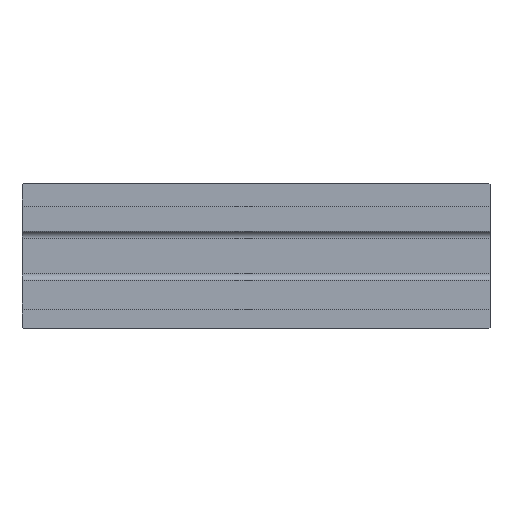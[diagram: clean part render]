
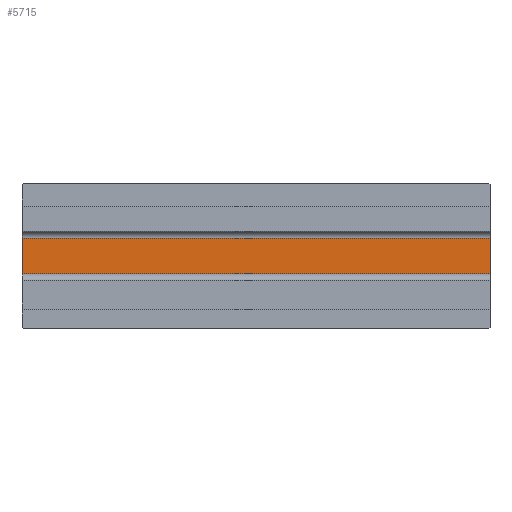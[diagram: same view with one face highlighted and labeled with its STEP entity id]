
A CAD part, front view. The second image highlights one B-rep face of the part: STEP entity #5715.
In plain terms, the highlighted planar face has unit normal (0, -1, 0).
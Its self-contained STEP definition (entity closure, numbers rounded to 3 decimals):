
#73 = CARTESIAN_POINT ( 'NONE',  ( -660., 38., 127.5 ) ) ;
#75 = DIRECTION ( 'NONE',  ( -1., 0., 0. ) ) ;
#281 = CARTESIAN_POINT ( 'NONE',  ( -660., 38., 77.5 ) ) ;
#286 = CARTESIAN_POINT ( 'NONE',  ( -660., 38., 127.5 ) ) ;
#303 = CARTESIAN_POINT ( 'NONE',  ( 0., 38., 127.5 ) ) ;
#316 = CARTESIAN_POINT ( 'NONE',  ( 0., 38., 77.5 ) ) ;
#741 = AXIS2_PLACEMENT_3D ( 'NONE', #8000, #8024, #8022 ) ;
#896 = EDGE_CURVE ( 'NONE', #3395, #3446, #6339, .T. ) ;
#912 = EDGE_CURVE ( 'NONE', #3446, #3419, #6319, .T. ) ;
#929 = EDGE_CURVE ( 'NONE', #3395, #3396, #6293, .T. ) ;
#1523 = EDGE_CURVE ( 'NONE', #3419, #3396, #6010, .T. ) ;
#3074 = EDGE_LOOP ( 'NONE', ( #6603, #6604, #6605, #6606 ) ) ;
#3395 = VERTEX_POINT ( 'NONE', #281 ) ;
#3396 = VERTEX_POINT ( 'NONE', #286 ) ;
#3419 = VERTEX_POINT ( 'NONE', #303 ) ;
#3446 = VERTEX_POINT ( 'NONE', #316 ) ;
#4984 = DIRECTION ( 'NONE',  ( 0., 0., 1. ) ) ;
#4985 = CARTESIAN_POINT ( 'NONE',  ( -660., 38., 67.5 ) ) ;
#5008 = DIRECTION ( 'NONE',  ( 0., 0., 1. ) ) ;
#5014 = CARTESIAN_POINT ( 'NONE',  ( 0., 38., 67.5 ) ) ;
#5029 = DIRECTION ( 'NONE',  ( 1., 0., 0. ) ) ;
#5031 = CARTESIAN_POINT ( 'NONE',  ( 0., 38., 77.5 ) ) ;
#5715 = ADVANCED_FACE ( 'NONE', ( #5871 ), #7993, .F. ) ;
#5871 = FACE_OUTER_BOUND ( 'NONE', #3074, .T. ) ;
#6007 = VECTOR ( 'NONE', #75, 1000. ) ;
#6010 = LINE ( 'NONE', #73, #6007 ) ;
#6290 = VECTOR ( 'NONE', #4984, 1000. ) ;
#6293 = LINE ( 'NONE', #4985, #6290 ) ;
#6314 = VECTOR ( 'NONE', #5008, 1000. ) ;
#6319 = LINE ( 'NONE', #5014, #6314 ) ;
#6336 = VECTOR ( 'NONE', #5029, 1000. ) ;
#6339 = LINE ( 'NONE', #5031, #6336 ) ;
#6603 = ORIENTED_EDGE ( 'NONE', *, *, #929, .F. ) ;
#6604 = ORIENTED_EDGE ( 'NONE', *, *, #896, .T. ) ;
#6605 = ORIENTED_EDGE ( 'NONE', *, *, #912, .T. ) ;
#6606 = ORIENTED_EDGE ( 'NONE', *, *, #1523, .T. ) ;
#7993 = PLANE ( 'NONE',  #741 ) ;
#8000 = CARTESIAN_POINT ( 'NONE',  ( -660., 38., 67.5 ) ) ;
#8022 = DIRECTION ( 'NONE',  ( 0., 0., 1. ) ) ;
#8024 = DIRECTION ( 'NONE',  ( 0., 1., 0. ) ) ;
